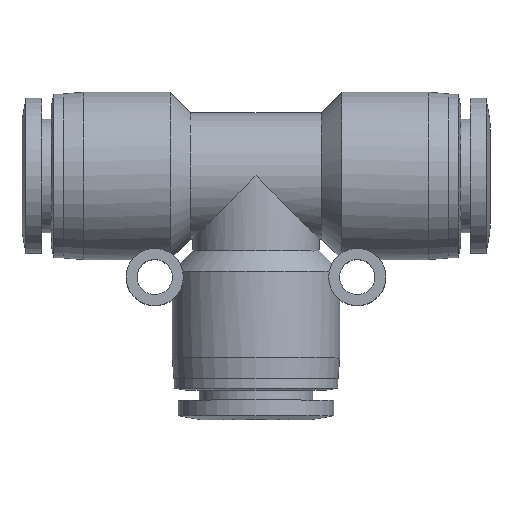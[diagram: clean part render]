
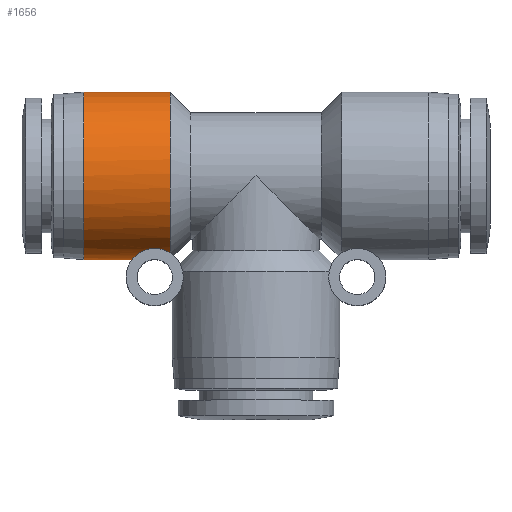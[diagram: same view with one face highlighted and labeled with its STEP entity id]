
A CAD part, top view. The second image highlights one B-rep face of the part: STEP entity #1656.
In plain terms, the highlighted cylindrical face has radius 10.25 mm (diameter 20.5 mm), a partial arc.
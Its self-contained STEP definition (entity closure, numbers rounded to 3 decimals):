
#34 = VECTOR ( 'NONE', #976, 1000. ) ;
#69 = CARTESIAN_POINT ( 'NONE',  ( -14.911, -9.962, 2.414 ) ) ;
#153 = CARTESIAN_POINT ( 'NONE',  ( -11.88, -8.934, 5.025 ) ) ;
#302 = CARTESIAN_POINT ( 'NONE',  ( -14.945, -9.997, 2.261 ) ) ;
#405 = DIRECTION ( 'NONE',  ( 0., 1., 0. ) ) ;
#422 = CARTESIAN_POINT ( 'NONE',  ( -10.5, -9.461, 3.945 ) ) ;
#430 = EDGE_LOOP ( 'NONE', ( #2199, #1978, #2481, #2955, #1392 ) ) ;
#502 = VERTEX_POINT ( 'NONE', #615 ) ;
#505 = CIRCLE ( 'NONE', #672, 10.25 ) ;
#559 = DIRECTION ( 'NONE',  ( 1., 0., 0. ) ) ;
#571 = CARTESIAN_POINT ( 'NONE',  ( -14.125, -9.354, 4.19 ) ) ;
#576 = CARTESIAN_POINT ( 'NONE',  ( -21.1, 0., 0. ) ) ;
#594 = DIRECTION ( 'NONE',  ( 0., 1., 0. ) ) ;
#615 = CARTESIAN_POINT ( 'NONE',  ( -10.5, -9.461, 3.945 ) ) ;
#623 = CARTESIAN_POINT ( 'NONE',  ( -12.622, -8.902, 5.082 ) ) ;
#642 = CARTESIAN_POINT ( 'NONE',  ( -14.747, -9.802, 3.003 ) ) ;
#672 = AXIS2_PLACEMENT_3D ( 'NONE', #576, #559, #594 ) ;
#682 = CARTESIAN_POINT ( 'NONE',  ( -10.5, 10.25, 0. ) ) ;
#705 = CARTESIAN_POINT ( 'NONE',  ( -15.8, 10.25, 0. ) ) ;
#763 = CARTESIAN_POINT ( 'NONE',  ( -12.06, -8.912, 5.064 ) ) ;
#839 = CARTESIAN_POINT ( 'NONE',  ( -13.831, -9.205, 4.51 ) ) ;
#878 = CARTESIAN_POINT ( 'NONE',  ( -14.088, -9.334, 4.236 ) ) ;
#899 = CARTESIAN_POINT ( 'NONE',  ( -13.121, -8.975, 4.951 ) ) ;
#915 = CARTESIAN_POINT ( 'NONE',  ( -15.092, -10.153, 1.566 ) ) ;
#926 = B_SPLINE_CURVE_WITH_KNOTS ( 'NONE', 3,
 ( #2268, #1415, #915, #1998, #3020, #302, #2495, #3093, #69, #2230, #3309, #642, #2736, #3328, #1377, #1114, #2196, #571, #3289, #878, #3056, #1943, #839, #1665, #2757, #1397, #3346, #2479, #1165, #2250, #899, #1983, #3077, #623, #1198, #763, #153, #1504, #2677, #2282, #2945, #3378, #965, #2826, #2875, #2016, #2050, #3141, #1855, #422 ),
 .UNSPECIFIED., .F., .F.,
 ( 4, 2, 2, 1, 1, 1, 1, 2, 2, 2, 2, 1, 1, 1, 1, 2, 2, 2, 1, 1, 2, 2, 2, 2, 2, 2, 1, 1, 1, 1, 2, 4 ),
 ( 0.5, 0.625, 0.626, 0.627, 0.629, 0.633, 0.641, 0.656, 0.687, 0.75, 0.751, 0.752, 0.754, 0.758, 0.766, 0.781, 0.812, 0.814, 0.816, 0.82, 0.828, 0.844, 0.875, 0.906, 0.937, 0.938, 0.939, 0.941, 0.945, 0.953, 0.969, 1. ),
 .UNSPECIFIED. ) ;
#965 = CARTESIAN_POINT ( 'NONE',  ( -11.17, -9.123, 4.672 ) ) ;
#976 = DIRECTION ( 'NONE',  ( 1., 0., 0. ) ) ;
#1035 = CARTESIAN_POINT ( 'NONE',  ( -15.8, -10.25, 0. ) ) ;
#1114 = CARTESIAN_POINT ( 'NONE',  ( -14.137, -9.361, 4.175 ) ) ;
#1123 = DIRECTION ( 'NONE',  ( 0., 1., 0. ) ) ;
#1165 = CARTESIAN_POINT ( 'NONE',  ( -13.266, -9.009, 4.889 ) ) ;
#1190 = EDGE_CURVE ( 'NONE', #1728, #2828, #505, .T. ) ;
#1198 = CARTESIAN_POINT ( 'NONE',  ( -12.436, -8.895, 5.094 ) ) ;
#1205 = CIRCLE ( 'NONE', #1500, 10.25 ) ;
#1377 = CARTESIAN_POINT ( 'NONE',  ( -14.323, -9.468, 3.935 ) ) ;
#1392 = ORIENTED_EDGE ( 'NONE', *, *, #1824, .F. ) ;
#1397 = CARTESIAN_POINT ( 'NONE',  ( -13.334, -9.027, 4.855 ) ) ;
#1415 = CARTESIAN_POINT ( 'NONE',  ( -15.162, -10.25, 0.816 ) ) ;
#1500 = AXIS2_PLACEMENT_3D ( 'NONE', #2190, #1622, #1123 ) ;
#1504 = CARTESIAN_POINT ( 'NONE',  ( -11.53, -9.005, 4.897 ) ) ;
#1588 = EDGE_CURVE ( 'NONE', #1723, #502, #926, .T. ) ;
#1622 = DIRECTION ( 'NONE',  ( 1., 0., 0. ) ) ;
#1656 = ADVANCED_FACE ( 'NONE', ( #3413 ), #3496, .T. ) ;
#1665 = CARTESIAN_POINT ( 'NONE',  ( -13.632, -9.12, 4.679 ) ) ;
#1723 = VERTEX_POINT ( 'NONE', #3264 ) ;
#1728 = VERTEX_POINT ( 'NONE', #2995 ) ;
#1824 = EDGE_CURVE ( 'NONE', #1728, #1846, #2309, .T. ) ;
#1846 = VERTEX_POINT ( 'NONE', #682 ) ;
#1847 = EDGE_CURVE ( 'NONE', #2828, #1723, #2042, .T. ) ;
#1855 = CARTESIAN_POINT ( 'NONE',  ( -10.601, -9.395, 4.102 ) ) ;
#1943 = CARTESIAN_POINT ( 'NONE',  ( -13.928, -9.249, 4.418 ) ) ;
#1978 = ORIENTED_EDGE ( 'NONE', *, *, #1847, .T. ) ;
#1983 = CARTESIAN_POINT ( 'NONE',  ( -12.986, -8.948, 5. ) ) ;
#1998 = CARTESIAN_POINT ( 'NONE',  ( -14.95, -10.002, 2.241 ) ) ;
#2016 = CARTESIAN_POINT ( 'NONE',  ( -10.975, -9.202, 4.516 ) ) ;
#2033 = CARTESIAN_POINT ( 'NONE',  ( -15.8, 0., 0. ) ) ;
#2042 = LINE ( 'NONE', #1035, #3063 ) ;
#2050 = CARTESIAN_POINT ( 'NONE',  ( -10.885, -9.244, 4.429 ) ) ;
#2190 = CARTESIAN_POINT ( 'NONE',  ( -10.5, 0., 0. ) ) ;
#2196 = CARTESIAN_POINT ( 'NONE',  ( -14.132, -9.359, 4.181 ) ) ;
#2199 = ORIENTED_EDGE ( 'NONE', *, *, #1190, .T. ) ;
#2230 = CARTESIAN_POINT ( 'NONE',  ( -14.869, -9.919, 2.586 ) ) ;
#2250 = CARTESIAN_POINT ( 'NONE',  ( -13.188, -8.99, 4.925 ) ) ;
#2268 = CARTESIAN_POINT ( 'NONE',  ( -15.162, -10.25, 0. ) ) ;
#2282 = CARTESIAN_POINT ( 'NONE',  ( -11.193, -9.115, 4.689 ) ) ;
#2309 = LINE ( 'NONE', #705, #34 ) ;
#2479 = CARTESIAN_POINT ( 'NONE',  ( -13.299, -9.018, 4.873 ) ) ;
#2481 = ORIENTED_EDGE ( 'NONE', *, *, #1588, .T. ) ;
#2495 = CARTESIAN_POINT ( 'NONE',  ( -14.941, -9.993, 2.281 ) ) ;
#2550 = DIRECTION ( 'NONE',  ( 1., 0., 0. ) ) ;
#2597 = DIRECTION ( 'NONE',  ( 1., 0., 0. ) ) ;
#2677 = CARTESIAN_POINT ( 'NONE',  ( -11.361, -9.053, 4.808 ) ) ;
#2714 = AXIS2_PLACEMENT_3D ( 'NONE', #2033, #2550, #405 ) ;
#2736 = CARTESIAN_POINT ( 'NONE',  ( -14.685, -9.747, 3.175 ) ) ;
#2757 = CARTESIAN_POINT ( 'NONE',  ( -13.491, -9.071, 4.774 ) ) ;
#2826 = CARTESIAN_POINT ( 'NONE',  ( -11.141, -9.134, 4.651 ) ) ;
#2828 = VERTEX_POINT ( 'NONE', #3392 ) ;
#2875 = CARTESIAN_POINT ( 'NONE',  ( -11.085, -9.156, 4.608 ) ) ;
#2945 = CARTESIAN_POINT ( 'NONE',  ( -11.19, -9.116, 4.687 ) ) ;
#2955 = ORIENTED_EDGE ( 'NONE', *, *, #3211, .F. ) ;
#2995 = CARTESIAN_POINT ( 'NONE',  ( -21.1, 10.25, 0. ) ) ;
#3020 = CARTESIAN_POINT ( 'NONE',  ( -14.948, -10., 2.249 ) ) ;
#3056 = CARTESIAN_POINT ( 'NONE',  ( -14.035, -9.305, 4.299 ) ) ;
#3063 = VECTOR ( 'NONE', #2597, 1000. ) ;
#3077 = CARTESIAN_POINT ( 'NONE',  ( -12.896, -8.934, 5.025 ) ) ;
#3093 = CARTESIAN_POINT ( 'NONE',  ( -14.931, -9.983, 2.325 ) ) ;
#3141 = CARTESIAN_POINT ( 'NONE',  ( -10.71, -9.332, 4.242 ) ) ;
#3211 = EDGE_CURVE ( 'NONE', #1846, #502, #1205, .T. ) ;
#3264 = CARTESIAN_POINT ( 'NONE',  ( -15.162, -10.25, 0. ) ) ;
#3289 = CARTESIAN_POINT ( 'NONE',  ( -14.114, -9.348, 4.204 ) ) ;
#3309 = CARTESIAN_POINT ( 'NONE',  ( -14.83, -9.881, 2.728 ) ) ;
#3328 = CARTESIAN_POINT ( 'NONE',  ( -14.483, -9.581, 3.658 ) ) ;
#3346 = CARTESIAN_POINT ( 'NONE',  ( -13.321, -9.024, 4.862 ) ) ;
#3378 = CARTESIAN_POINT ( 'NONE',  ( -11.182, -9.119, 4.681 ) ) ;
#3392 = CARTESIAN_POINT ( 'NONE',  ( -21.1, -10.25, 0. ) ) ;
#3413 = FACE_OUTER_BOUND ( 'NONE', #430, .T. ) ;
#3496 = CYLINDRICAL_SURFACE ( 'NONE', #2714, 10.25 ) ;
